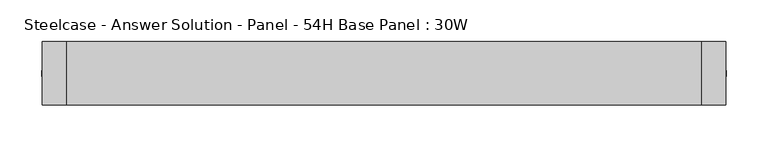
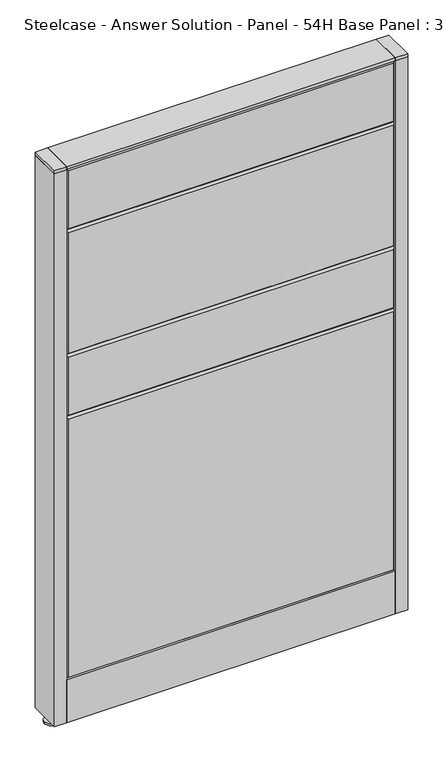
"""IFC4 building model written with IfcOpenShell, lengths in millimetres: furniture geometry, Steelcase - Answer Solution - Panel - 54H Base Panel : 30W."""

from ifc_helpers import new_model, si_unit, point, frame, frame_2d, origin, place, context, project, spatial, polyline, circle_curve, trimmed, segment, composite_curve, outline, extrude, faceted_brep, source, transform, mapped, element, save


def steelcase_answer_solution_panel_54h_base_panel_30w_ee10f5f1(model_context):
    return source(origin(), model_context, "Body", "SolidModel", [
        extrude(outline(composite_curve([segment(trimmed(circle_curve(frame_2d((395.224, 0.0320214)), 5.08), [point((400.304, 0.0320214))], [point((390.144, 0.0320214))], False, "CARTESIAN"), True, "CONTINUOUS"), segment(trimmed(circle_curve(frame_2d((395.224, 0.0320214)), 5.08), [point((390.144, 0.0320214))], [point((400.304, 0.0320214))], False, "CARTESIAN"), True, "CONTINUOUS")], self_intersect=False)), frame((0.0, 0.0, 5.0799671), z_axis=(0.0, 0.0, 1.0), x_axis=(1.0, 0.0, 0.0)), (0.0, 0.0, 1.0), 10.414),
        extrude(outline(composite_curve([segment(trimmed(circle_curve(frame_2d((395.224, 0.0320214)), 15.24), [point((410.464, 0.0320214))], [point((379.984, 0.0320214))], False, "CARTESIAN"), True, "CONTINUOUS"), segment(trimmed(circle_curve(frame_2d((395.224, 0.0320214)), 15.24), [point((379.984, 0.0320214))], [point((410.464, 0.0320214))], False, "CARTESIAN"), True, "CONTINUOUS")], self_intersect=False)), frame((0.0, 0.0, -3.29e-05), z_axis=(0.0, 0.0, 1.0), x_axis=(1.0, 0.0, 0.0)), (0.0, 0.0, 1.0), 5.08),
        extrude(outline(polyline([(409.575, 38.1320408), (409.575, -38.0679592), (381.0, -38.0679592), (381.0, 38.1320408), (409.575, 38.1320408)])), frame((0.0, 0.0, 1370.6348), z_axis=(0.0, 0.0, 1.0), x_axis=(1.0, 0.0, 0.0)), (0.0, 0.0, 1.0), 7.3151671),
        extrude(outline(polyline([(409.575, 38.1320408), (409.575, -38.0679592), (381.0, -38.0679592), (381.0, 38.1320408), (409.575, 38.1320408)])), frame((0.0, 0.0, 15.4939671), z_axis=(0.0, 0.0, 1.0), x_axis=(1.0, 0.0, 0.0)), (0.0, 0.0, 1.0), 1355.1408329),
        extrude(outline(composite_curve([segment(trimmed(circle_curve(frame_2d((-395.224, 0.0320214)), 5.08), [point((-400.304, 0.0320214))], [point((-390.144, 0.0320214))], False, "CARTESIAN"), True, "CONTINUOUS"), segment(trimmed(circle_curve(frame_2d((-395.224, 0.0320214)), 5.08), [point((-390.144, 0.0320214))], [point((-400.304, 0.0320214))], False, "CARTESIAN"), True, "CONTINUOUS")], self_intersect=False)), frame((0.0, 0.0, 5.0799671), z_axis=(0.0, 0.0, 1.0), x_axis=(1.0, 0.0, 0.0)), (0.0, 0.0, 1.0), 10.414),
        extrude(outline(composite_curve([segment(trimmed(circle_curve(frame_2d((-395.224, 0.0320214)), 15.24), [point((-410.464, 0.0320214))], [point((-379.984, 0.0320214))], False, "CARTESIAN"), True, "CONTINUOUS"), segment(trimmed(circle_curve(frame_2d((-395.224, 0.0320214)), 15.24), [point((-379.984, 0.0320214))], [point((-410.464, 0.0320214))], False, "CARTESIAN"), True, "CONTINUOUS")], self_intersect=False)), frame((0.0, 0.0, -3.29e-05), z_axis=(0.0, 0.0, 1.0), x_axis=(1.0, 0.0, 0.0)), (0.0, 0.0, 1.0), 5.08),
        extrude(outline(polyline([(-409.575, 38.1320408), (-381.0, 38.1320408), (-381.0, -38.0679592), (-409.575, -38.0679592), (-409.575, 38.1320408)])), frame((0.0, 0.0, 1370.6348), z_axis=(0.0, 0.0, 1.0), x_axis=(1.0, 0.0, 0.0)), (0.0, 0.0, 1.0), 7.3151671),
        extrude(outline(polyline([(-409.575, 38.1320408), (-381.0, 38.1320408), (-381.0, -38.0679592), (-409.575, -38.0679592), (-409.575, 38.1320408)])), frame((0.0, 0.0, 15.4939671), z_axis=(0.0, 0.0, 1.0), x_axis=(1.0, 0.0, 0.0)), (0.0, 0.0, 1.0), 1355.1408329),
        faceted_brep([(-376.174, 38.1635011, 1366.774), (376.174, 38.1635011, 1366.774), (376.174, 38.1635011, 1224.026), (-376.174, 38.1635011, 1224.026), (-381.0, 33.3375011, 1371.6), (-381.0, 33.3375011, 1219.2), (381.0, 33.3375011, 1219.2), (381.0, 33.3375011, 1371.6)], [[[0, 1, 2, 3]], [[4, 5, 6, 7]], [[4, 7, 1, 0]], [[7, 6, 2, 1]], [[6, 5, 3, 2]], [[5, 4, 0, 3]]]),
        faceted_brep([(-376.174, 38.1635011, 1214.374), (376.174, 38.1635011, 1214.374), (376.174, 38.1635011, 919.226), (-376.174, 38.1635011, 919.226), (-381.0, 33.3375011, 1219.2), (-381.0, 33.3375011, 914.4), (381.0, 33.3375011, 914.4), (381.0, 33.3375011, 1219.2)], [[[0, 1, 2, 3]], [[4, 5, 6, 7]], [[4, 7, 1, 0]], [[7, 6, 2, 1]], [[6, 5, 3, 2]], [[5, 4, 0, 3]]]),
        faceted_brep([(-376.174, 38.1635011, 909.574), (376.174, 38.1635011, 909.574), (376.174, 38.1635011, 766.826), (-376.174, 38.1635011, 766.826), (-381.0, 33.3375011, 914.4), (-381.0, 33.3375011, 762.0), (381.0, 33.3375011, 762.0), (381.0, 33.3375011, 914.4)], [[[0, 1, 2, 3]], [[4, 5, 6, 7]], [[4, 7, 1, 0]], [[7, 6, 2, 1]], [[6, 5, 3, 2]], [[5, 4, 0, 3]]]),
        faceted_brep([(-376.174, 38.1635011, 757.174), (376.174, 38.1635011, 757.174), (376.174, 38.1635011, 125.476), (-376.174, 38.1635011, 125.476), (-381.0, 33.3375011, 762.0), (-381.0, 33.3375011, 120.65), (381.0, 33.3375011, 120.65), (381.0, 33.3375011, 762.0)], [[[0, 1, 2, 3]], [[4, 5, 6, 7]], [[4, 7, 1, 0]], [[7, 6, 2, 1]], [[6, 5, 3, 2]], [[5, 4, 0, 3]]]),
        faceted_brep([(376.174, -38.1635011, 1366.774), (-376.174, -38.1635011, 1366.774), (-376.174, -38.1635011, 1224.026), (376.174, -38.1635011, 1224.026), (381.0, -33.3375011, 1371.6), (381.0, -33.3375011, 1219.2), (-381.0, -33.3375011, 1219.2), (-381.0, -33.3375011, 1371.6)], [[[0, 1, 2, 3]], [[4, 5, 6, 7]], [[4, 7, 1, 0]], [[7, 6, 2, 1]], [[6, 5, 3, 2]], [[5, 4, 0, 3]]]),
        faceted_brep([(376.174, -38.1635011, 1214.374), (-376.174, -38.1635011, 1214.374), (-376.174, -38.1635011, 919.226), (376.174, -38.1635011, 919.226), (381.0, -33.3375011, 1219.2), (381.0, -33.3375011, 914.4), (-381.0, -33.3375011, 914.4), (-381.0, -33.3375011, 1219.2)], [[[0, 1, 2, 3]], [[4, 5, 6, 7]], [[4, 7, 1, 0]], [[7, 6, 2, 1]], [[6, 5, 3, 2]], [[5, 4, 0, 3]]]),
        faceted_brep([(376.174, -38.1635011, 909.574), (-376.174, -38.1635011, 909.574), (-376.174, -38.1635011, 766.826), (376.174, -38.1635011, 766.826), (381.0, -33.3375011, 914.4), (381.0, -33.3375011, 762.0), (-381.0, -33.3375011, 762.0), (-381.0, -33.3375011, 914.4)], [[[0, 1, 2, 3]], [[4, 5, 6, 7]], [[4, 7, 1, 0]], [[7, 6, 2, 1]], [[6, 5, 3, 2]], [[5, 4, 0, 3]]]),
        faceted_brep([(376.174, -38.1635011, 757.174), (-376.174, -38.1635011, 757.174), (-376.174, -38.1635011, 125.476), (376.174, -38.1635011, 125.476), (381.0, -33.3375011, 762.0), (381.0, -33.3375011, 120.65), (-381.0, -33.3375011, 120.65), (-381.0, -33.3375011, 762.0)], [[[0, 1, 2, 3]], [[4, 5, 6, 7]], [[4, 7, 1, 0]], [[7, 6, 2, 1]], [[6, 5, 3, 2]], [[5, 4, 0, 3]]]),
        extrude(outline(polyline([(381.0, 38.1000194), (381.0, -38.1000194), (-381.0, -38.1000194), (-381.0, 38.1000194), (381.0, 38.1000194)])), frame((0.0, 0.0, 1371.6), z_axis=(0.0, 0.0, 1.0), x_axis=(1.0, 0.0, 0.0)), (0.0, 0.0, 1.0), 6.35),
        extrude(outline(polyline([(25.4000011, 119.8575157), (25.4000011, 120.65), (38.1000194, 120.65), (38.1000194, 15.494), (37.3075215, 15.494), (37.3075215, 119.8575157), (25.4000011, 119.8575157)])), frame((-381.0, 0.0, 0.0), z_axis=(1.0, 0.0, 0.0), x_axis=(0.0, 1.0, 0.0)), (0.0, 0.0, 1.0), 762.0),
        extrude(outline(polyline([(-25.4000011, 119.8575157), (-37.3075215, 119.8575157), (-37.3075215, 15.494), (-38.1000194, 15.494), (-38.1000194, 120.65), (-25.4000011, 120.65), (-25.4000011, 119.8575157)])), frame((-381.0, 0.0, 0.0), z_axis=(1.0, 0.0, 0.0), x_axis=(0.0, 1.0, 0.0)), (0.0, 0.0, 1.0), 762.0),
    ])


if __name__ == "__main__":
    model = new_model("IFC4")
    model_context = context("Model", 3, world=origin())
    ifc_project = project(units=[si_unit("LENGTHUNIT", "METRE", prefix="MILLI")], contexts=[model_context])
    site = spatial("IfcSite", under=ifc_project)
    building = spatial("IfcBuilding", under=site)
    placement = place(None, origin())
    steelcase_answer_solution_panel_54h_base_panel_30w_shape = steelcase_answer_solution_panel_54h_base_panel_30w_ee10f5f1(model_context)
    element("IfcFurniture", 1, ObjectType="Steelcase - Answer Solution - Panel - 54H Base Panel : 30W", at=placement, inside=building, context=model_context, shape_type="MappedRepresentation", body=[
        mapped(steelcase_answer_solution_panel_54h_base_panel_30w_shape, transform((0.0, 0.0, 0.0), x_axis=(1.0, 0.0, 0.0), y_axis=(0.0, 1.0, 0.0), z_axis=(0.0, 0.0, 1.0))),
    ])
    save(model, "model.ifc")
